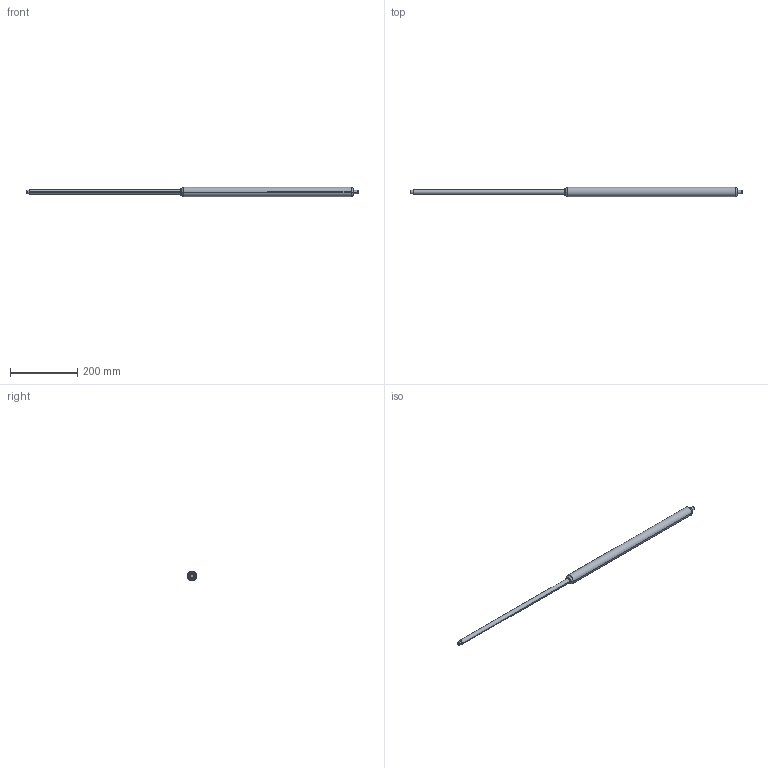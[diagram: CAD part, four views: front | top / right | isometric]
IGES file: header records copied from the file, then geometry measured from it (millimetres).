
Start section: SolidWorks IGES file using analytic representation for surfaces
Global section: file name: Z:\7-3D図面\01.図面\01.L\外形図\Ｇ／Ｓ\20170710(最新)\カタログ用\IGES\FGS-28-450-BB.IGS; native system: SolidWorks 2016; preprocessor: SolidWorks 2016; author: flgijutsu; date: 170710.171753; units: millimetre
Bounding box: 984 x 28 x 28 mm (x, y, z)
Surface area: 66464.6 mm2 (no closed solid volume)
Topology: 0 solids, 0 shells, 29 faces, 352 edges, 352 vertices
Faces by surface type: revolution 20, bspline 9
